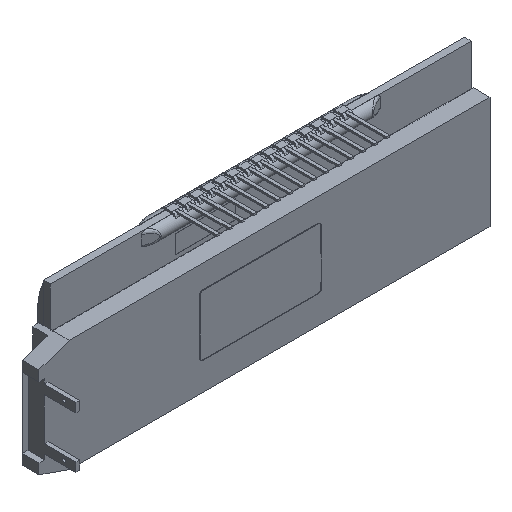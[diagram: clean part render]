
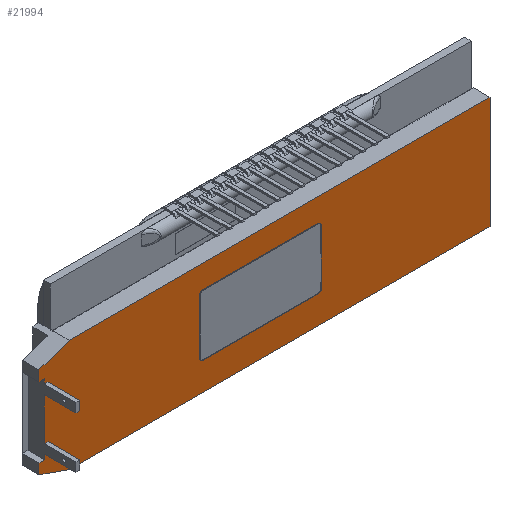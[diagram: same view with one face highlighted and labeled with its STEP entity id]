
A CAD part, isometric view. The second image highlights one B-rep face of the part: STEP entity #21994.
In plain terms, the highlighted planar face has unit normal (0, -1, 0).
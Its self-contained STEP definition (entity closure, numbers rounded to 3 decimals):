
#242 = VECTOR ( 'NONE', #9216, 1000. ) ;
#362 = EDGE_CURVE ( 'NONE', #14048, #4536, #9142, .T. ) ;
#404 = DIRECTION ( 'NONE',  ( 1., 0., 0. ) ) ;
#593 = VECTOR ( 'NONE', #7772, 1000. ) ;
#742 = VERTEX_POINT ( 'NONE', #23799 ) ;
#842 = CARTESIAN_POINT ( 'NONE',  ( -69.5, -4.2, 0. ) ) ;
#859 = ORIENTED_EDGE ( 'NONE', *, *, #4784, .T. ) ;
#889 = CARTESIAN_POINT ( 'NONE',  ( -73.6, -4.2, 15.05 ) ) ;
#1359 = EDGE_CURVE ( 'NONE', #4536, #14703, #8410, .T. ) ;
#1366 = DIRECTION ( 'NONE',  ( 0.944, 0., 0.33 ) ) ;
#1491 = CARTESIAN_POINT ( 'NONE',  ( -74.5, -4.2, 16.75 ) ) ;
#1575 = CARTESIAN_POINT ( 'NONE',  ( -73.6, -4.2, 0. ) ) ;
#1613 = DIRECTION ( 'NONE',  ( 1., 0., 0. ) ) ;
#1720 = LINE ( 'NONE', #9724, #7817 ) ;
#1754 = LINE ( 'NONE', #3635, #7932 ) ;
#1879 = CARTESIAN_POINT ( 'NONE',  ( 0., -4.2, 0. ) ) ;
#1983 = CARTESIAN_POINT ( 'NONE',  ( -73., -4.2, 14.25 ) ) ;
#1991 = LINE ( 'NONE', #13282, #2419 ) ;
#2419 = VECTOR ( 'NONE', #13770, 1000. ) ;
#2548 = EDGE_CURVE ( 'NONE', #14458, #3855, #11361, .T. ) ;
#2654 = VECTOR ( 'NONE', #20699, 1000. ) ;
#2683 = CARTESIAN_POINT ( 'NONE',  ( -73.6, -4.2, 12.75 ) ) ;
#3096 = CARTESIAN_POINT ( 'NONE',  ( 0., -4.2, 0. ) ) ;
#3165 = VECTOR ( 'NONE', #5886, 1000. ) ;
#3302 = LINE ( 'NONE', #1575, #242 ) ;
#3635 = CARTESIAN_POINT ( 'NONE',  ( -74.5, -4.2, 1.75 ) ) ;
#3741 = DIRECTION ( 'NONE',  ( 0., 0., 1. ) ) ;
#3855 = VERTEX_POINT ( 'NONE', #18891 ) ;
#4206 = EDGE_CURVE ( 'NONE', #5847, #13012, #15200, .T. ) ;
#4212 = VERTEX_POINT ( 'NONE', #22888 ) ;
#4339 = EDGE_CURVE ( 'NONE', #5847, #742, #18717, .T. ) ;
#4468 = CARTESIAN_POINT ( 'NONE',  ( -73.6, -4.2, 5.75 ) ) ;
#4536 = VERTEX_POINT ( 'NONE', #21061 ) ;
#4784 = EDGE_CURVE ( 'NONE', #24066, #11132, #16103, .T. ) ;
#4790 = VERTEX_POINT ( 'NONE', #23665 ) ;
#4793 = EDGE_CURVE ( 'NONE', #18308, #4790, #20117, .T. ) ;
#4912 = CARTESIAN_POINT ( 'NONE',  ( -73.6, -4.2, 12.75 ) ) ;
#5636 = LINE ( 'NONE', #18955, #7392 ) ;
#5666 = CARTESIAN_POINT ( 'NONE',  ( -69.5, -4.2, 0. ) ) ;
#5847 = VERTEX_POINT ( 'NONE', #9908 ) ;
#5886 = DIRECTION ( 'NONE',  ( -1., 0., 0. ) ) ;
#6030 = EDGE_CURVE ( 'NONE', #742, #14458, #9259, .T. ) ;
#6236 = ORIENTED_EDGE ( 'NONE', *, *, #9048, .F. ) ;
#6318 = VECTOR ( 'NONE', #15978, 1000. ) ;
#6581 = LINE ( 'NONE', #4468, #11485 ) ;
#7241 = CARTESIAN_POINT ( 'NONE',  ( -73.6, -4.2, 0. ) ) ;
#7392 = VECTOR ( 'NONE', #19199, 1000. ) ;
#7448 = EDGE_CURVE ( 'NONE', #22470, #11132, #6581, .T. ) ;
#7772 = DIRECTION ( 'NONE',  ( 0., 0., 1. ) ) ;
#7817 = VECTOR ( 'NONE', #24816, 1000. ) ;
#7932 = VECTOR ( 'NONE', #15054, 1000. ) ;
#8309 = LINE ( 'NONE', #23525, #20816 ) ;
#8410 = LINE ( 'NONE', #15695, #21808 ) ;
#8580 = ORIENTED_EDGE ( 'NONE', *, *, #13867, .F. ) ;
#9048 = EDGE_CURVE ( 'NONE', #16943, #4212, #23147, .T. ) ;
#9142 = LINE ( 'NONE', #1491, #9665 ) ;
#9216 = DIRECTION ( 'NONE',  ( 0., 0., 1. ) ) ;
#9259 = LINE ( 'NONE', #22346, #2654 ) ;
#9511 = DIRECTION ( 'NONE',  ( -1., 0., 0. ) ) ;
#9665 = VECTOR ( 'NONE', #1366, 1000. ) ;
#9670 = CARTESIAN_POINT ( 'NONE',  ( -73.6, -4.2, 14.25 ) ) ;
#9724 = CARTESIAN_POINT ( 'NONE',  ( -73., -4.2, 14.25 ) ) ;
#9908 = CARTESIAN_POINT ( 'NONE',  ( -73.6, -4.2, 3.45 ) ) ;
#10570 = VECTOR ( 'NONE', #3741, 1000. ) ;
#10909 = ORIENTED_EDGE ( 'NONE', *, *, #21435, .F. ) ;
#11132 = VERTEX_POINT ( 'NONE', #889 ) ;
#11265 = CARTESIAN_POINT ( 'NONE',  ( -74.5, -4.2, 3.45 ) ) ;
#11361 = LINE ( 'NONE', #20945, #10570 ) ;
#11485 = VECTOR ( 'NONE', #23697, 1000. ) ;
#11498 = VECTOR ( 'NONE', #14413, 1000. ) ;
#11875 = ORIENTED_EDGE ( 'NONE', *, *, #18452, .F. ) ;
#12712 = EDGE_CURVE ( 'NONE', #4212, #13012, #1754, .T. ) ;
#12775 = EDGE_CURVE ( 'NONE', #23766, #16943, #23001, .T. ) ;
#12814 = VECTOR ( 'NONE', #16973, 1000. ) ;
#13012 = VERTEX_POINT ( 'NONE', #13989 ) ;
#13282 = CARTESIAN_POINT ( 'NONE',  ( -73., -4.2, 5.75 ) ) ;
#13704 = ORIENTED_EDGE ( 'NONE', *, *, #14478, .F. ) ;
#13770 = DIRECTION ( 'NONE',  ( -1., 0., 0. ) ) ;
#13867 = EDGE_CURVE ( 'NONE', #14703, #23766, #8309, .T. ) ;
#13975 = EDGE_LOOP ( 'NONE', ( #10909, #17081, #19313, #11875, #13704, #16114, #24451, #21103, #24013, #15019, #6236, #24197, #8580, #14040, #14183, #19306, #859, #21511 ) ) ;
#13989 = CARTESIAN_POINT ( 'NONE',  ( -74.5, -4.2, 3.45 ) ) ;
#14040 = ORIENTED_EDGE ( 'NONE', *, *, #1359, .F. ) ;
#14048 = VERTEX_POINT ( 'NONE', #23881 ) ;
#14183 = ORIENTED_EDGE ( 'NONE', *, *, #362, .F. ) ;
#14413 = DIRECTION ( 'NONE',  ( 0., 0., 1. ) ) ;
#14442 = CARTESIAN_POINT ( 'NONE',  ( -73.6, -4.2, 15.05 ) ) ;
#14458 = VERTEX_POINT ( 'NONE', #23239 ) ;
#14478 = EDGE_CURVE ( 'NONE', #3855, #16524, #1991, .T. ) ;
#14645 = DIRECTION ( 'NONE',  ( 0., 1., 0. ) ) ;
#14703 = VERTEX_POINT ( 'NONE', #24299 ) ;
#15019 = ORIENTED_EDGE ( 'NONE', *, *, #12712, .F. ) ;
#15054 = DIRECTION ( 'NONE',  ( 0., 0., 1. ) ) ;
#15109 = AXIS2_PLACEMENT_3D ( 'NONE', #3096, #14645, #1613 ) ;
#15200 = LINE ( 'NONE', #11265, #3165 ) ;
#15695 = CARTESIAN_POINT ( 'NONE',  ( 0., -4.2, 18.5 ) ) ;
#15978 = DIRECTION ( 'NONE',  ( 1., 0., 0. ) ) ;
#16103 = LINE ( 'NONE', #14442, #18394 ) ;
#16114 = ORIENTED_EDGE ( 'NONE', *, *, #2548, .F. ) ;
#16524 = VERTEX_POINT ( 'NONE', #17196 ) ;
#16857 = VERTEX_POINT ( 'NONE', #1983 ) ;
#16943 = VERTEX_POINT ( 'NONE', #842 ) ;
#16973 = DIRECTION ( 'NONE',  ( -0.944, 0., 0.33 ) ) ;
#17081 = ORIENTED_EDGE ( 'NONE', *, *, #17883, .F. ) ;
#17196 = CARTESIAN_POINT ( 'NONE',  ( -73.6, -4.2, 5.75 ) ) ;
#17463 = CARTESIAN_POINT ( 'NONE',  ( -74.5, -4.2, 1.75 ) ) ;
#17857 = DIRECTION ( 'NONE',  ( 0., 0., -1. ) ) ;
#17883 = EDGE_CURVE ( 'NONE', #4790, #16857, #5636, .T. ) ;
#18308 = VERTEX_POINT ( 'NONE', #2683 ) ;
#18370 = VECTOR ( 'NONE', #9511, 1000. ) ;
#18394 = VECTOR ( 'NONE', #22014, 1000. ) ;
#18452 = EDGE_CURVE ( 'NONE', #16524, #18308, #3302, .T. ) ;
#18577 = FACE_OUTER_BOUND ( 'NONE', #13975, .T. ) ;
#18717 = LINE ( 'NONE', #7241, #11498 ) ;
#18891 = CARTESIAN_POINT ( 'NONE',  ( -73., -4.2, 5.75 ) ) ;
#18892 = CARTESIAN_POINT ( 'NONE',  ( 0., -4.2, 0. ) ) ;
#18955 = CARTESIAN_POINT ( 'NONE',  ( -73., -4.2, 12.75 ) ) ;
#19199 = DIRECTION ( 'NONE',  ( 0., 0., 1. ) ) ;
#19242 = LINE ( 'NONE', #17463, #593 ) ;
#19306 = ORIENTED_EDGE ( 'NONE', *, *, #21026, .F. ) ;
#19313 = ORIENTED_EDGE ( 'NONE', *, *, #4793, .F. ) ;
#20117 = LINE ( 'NONE', #4912, #6318 ) ;
#20699 = DIRECTION ( 'NONE',  ( 1., 0., 0. ) ) ;
#20816 = VECTOR ( 'NONE', #17857, 1000. ) ;
#20945 = CARTESIAN_POINT ( 'NONE',  ( -73., -4.2, 4.25 ) ) ;
#21026 = EDGE_CURVE ( 'NONE', #24066, #14048, #19242, .T. ) ;
#21061 = CARTESIAN_POINT ( 'NONE',  ( -69.5, -4.2, 18.5 ) ) ;
#21103 = ORIENTED_EDGE ( 'NONE', *, *, #4339, .F. ) ;
#21435 = EDGE_CURVE ( 'NONE', #16857, #22470, #1720, .T. ) ;
#21511 = ORIENTED_EDGE ( 'NONE', *, *, #7448, .F. ) ;
#21808 = VECTOR ( 'NONE', #404, 1000. ) ;
#21994 = ADVANCED_FACE ( 'NONE', ( #18577 ), #22208, .F. ) ;
#22014 = DIRECTION ( 'NONE',  ( 1., 0., 0. ) ) ;
#22208 = PLANE ( 'NONE',  #15109 ) ;
#22346 = CARTESIAN_POINT ( 'NONE',  ( -73.6, -4.2, 4.25 ) ) ;
#22470 = VERTEX_POINT ( 'NONE', #9670 ) ;
#22888 = CARTESIAN_POINT ( 'NONE',  ( -74.5, -4.2, 1.75 ) ) ;
#23001 = LINE ( 'NONE', #1879, #18370 ) ;
#23147 = LINE ( 'NONE', #5666, #12814 ) ;
#23239 = CARTESIAN_POINT ( 'NONE',  ( -73., -4.2, 4.25 ) ) ;
#23525 = CARTESIAN_POINT ( 'NONE',  ( 0., -4.2, 0. ) ) ;
#23665 = CARTESIAN_POINT ( 'NONE',  ( -73., -4.2, 12.75 ) ) ;
#23697 = DIRECTION ( 'NONE',  ( 0., 0., 1. ) ) ;
#23766 = VERTEX_POINT ( 'NONE', #18892 ) ;
#23799 = CARTESIAN_POINT ( 'NONE',  ( -73.6, -4.2, 4.25 ) ) ;
#23881 = CARTESIAN_POINT ( 'NONE',  ( -74.5, -4.2, 16.75 ) ) ;
#24013 = ORIENTED_EDGE ( 'NONE', *, *, #4206, .T. ) ;
#24066 = VERTEX_POINT ( 'NONE', #24368 ) ;
#24197 = ORIENTED_EDGE ( 'NONE', *, *, #12775, .F. ) ;
#24299 = CARTESIAN_POINT ( 'NONE',  ( 0., -4.2, 18.5 ) ) ;
#24368 = CARTESIAN_POINT ( 'NONE',  ( -74.5, -4.2, 15.05 ) ) ;
#24451 = ORIENTED_EDGE ( 'NONE', *, *, #6030, .F. ) ;
#24816 = DIRECTION ( 'NONE',  ( -1., 0., 0. ) ) ;
